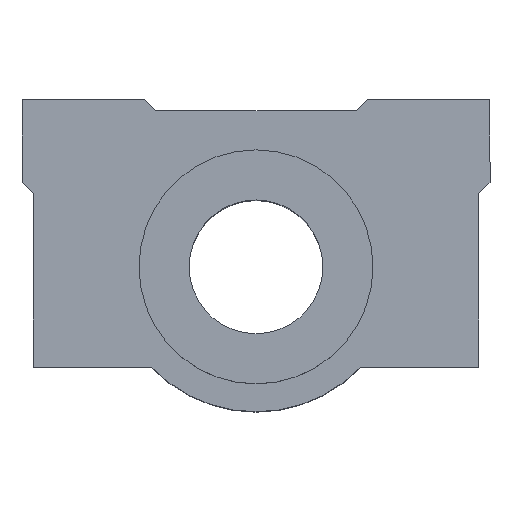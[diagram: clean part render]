
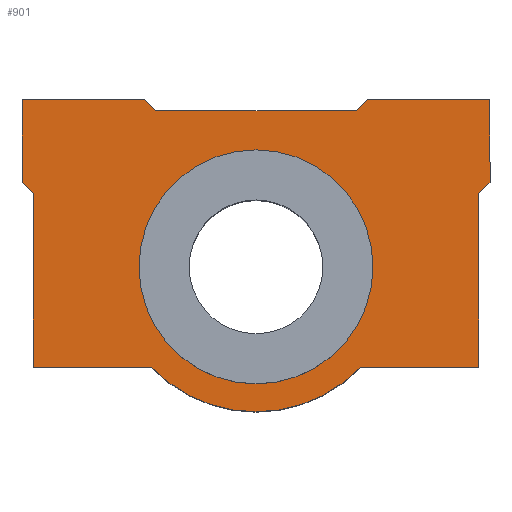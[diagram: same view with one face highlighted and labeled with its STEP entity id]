
A CAD part, top view. The second image highlights one B-rep face of the part: STEP entity #901.
In plain terms, the highlighted planar face has unit normal (0, 0, 1).
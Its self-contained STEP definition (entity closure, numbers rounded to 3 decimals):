
#133=CARTESIAN_POINT('',(-11.209,4.198,25.25));
#134=VERTEX_POINT('',#133);
#143=CARTESIAN_POINT('',(9.791,4.198,25.25));
#144=VERTEX_POINT('',#143);
#145=CARTESIAN_POINT('',(-0.709,4.198,25.25));
#146=DIRECTION('',(0.0,0.0,1.0));
#147=DIRECTION('',(-1.0,0.0,0.0));
#148=AXIS2_PLACEMENT_3D('',#145,#146,#147);
#149=CIRCLE('',#148,10.5);
#150=EDGE_CURVE('',#134,#144,#149,.T.);
#522=CARTESIAN_POINT('',(20.291,11.798,25.25));
#523=VERTEX_POINT('',#522);
#524=CARTESIAN_POINT('',(19.291,10.798,25.25));
#525=VERTEX_POINT('',#524);
#526=CARTESIAN_POINT('',(20.291,11.798,25.25));
#527=DIRECTION('',(-0.707,-0.707,0.0));
#528=VECTOR('',#527,1.414);
#529=LINE('',#526,#528);
#530=EDGE_CURVE('',#523,#525,#529,.T.);
#553=CARTESIAN_POINT('',(19.291,-4.802,25.25));
#554=VERTEX_POINT('',#553);
#555=CARTESIAN_POINT('',(19.291,10.798,25.25));
#556=DIRECTION('',(0.0,-1.0,0.0));
#557=VECTOR('',#556,15.6);
#558=LINE('',#555,#557);
#559=EDGE_CURVE('',#525,#554,#558,.T.);
#577=CARTESIAN_POINT('',(8.672,-4.802,25.25));
#578=VERTEX_POINT('',#577);
#579=CARTESIAN_POINT('',(19.291,-4.802,25.25));
#580=DIRECTION('',(-1.0,0.0,0.0));
#581=VECTOR('',#580,10.619);
#582=LINE('',#579,#581);
#583=EDGE_CURVE('',#554,#578,#582,.T.);
#605=CARTESIAN_POINT('',(-10.09,-4.802,25.25));
#606=VERTEX_POINT('',#605);
#607=CARTESIAN_POINT('',(-0.709,4.198,25.25));
#608=DIRECTION('',(0.0,0.0,-1.));
#609=DIRECTION('',(0.722,0.692,0.0));
#610=AXIS2_PLACEMENT_3D('',#607,#608,#609);
#611=CIRCLE('',#610,13.);
#612=EDGE_CURVE('',#578,#606,#611,.T.);
#630=CARTESIAN_POINT('',(-20.709,-4.802,25.25));
#631=VERTEX_POINT('',#630);
#632=CARTESIAN_POINT('',(-10.09,-4.802,25.25));
#633=DIRECTION('',(-1.0,0.0,0.0));
#634=VECTOR('',#633,10.619);
#635=LINE('',#632,#634);
#636=EDGE_CURVE('',#606,#631,#635,.T.);
#658=CARTESIAN_POINT('',(-20.709,10.798,25.25));
#659=VERTEX_POINT('',#658);
#660=CARTESIAN_POINT('',(-20.709,-4.802,25.25));
#661=DIRECTION('',(0.0,1.0,0.0));
#662=VECTOR('',#661,15.6);
#663=LINE('',#660,#662);
#664=EDGE_CURVE('',#631,#659,#663,.T.);
#682=CARTESIAN_POINT('',(-21.709,11.798,25.25));
#683=VERTEX_POINT('',#682);
#684=CARTESIAN_POINT('',(-20.709,10.798,25.25));
#685=DIRECTION('',(-0.707,0.707,0.0));
#686=VECTOR('',#685,1.414);
#687=LINE('',#684,#686);
#688=EDGE_CURVE('',#659,#683,#687,.T.);
#706=CARTESIAN_POINT('',(-21.709,19.198,25.25));
#707=VERTEX_POINT('',#706);
#708=CARTESIAN_POINT('',(-21.709,11.798,25.25));
#709=DIRECTION('',(0.0,1.0,0.0));
#710=VECTOR('',#709,7.4);
#711=LINE('',#708,#710);
#712=EDGE_CURVE('',#683,#707,#711,.T.);
#730=CARTESIAN_POINT('',(-10.709,19.198,25.25));
#731=VERTEX_POINT('',#730);
#732=CARTESIAN_POINT('',(-21.709,19.198,25.25));
#733=DIRECTION('',(1.0,0.0,0.0));
#734=VECTOR('',#733,11.);
#735=LINE('',#732,#734);
#736=EDGE_CURVE('',#707,#731,#735,.T.);
#758=CARTESIAN_POINT('',(-9.709,18.198,25.25));
#759=VERTEX_POINT('',#758);
#760=CARTESIAN_POINT('',(-10.709,19.198,25.25));
#761=DIRECTION('',(0.707,-0.707,0.0));
#762=VECTOR('',#761,1.414);
#763=LINE('',#760,#762);
#764=EDGE_CURVE('',#731,#759,#763,.T.);
#782=CARTESIAN_POINT('',(8.291,18.198,25.25));
#783=VERTEX_POINT('',#782);
#784=CARTESIAN_POINT('',(-9.709,18.198,25.25));
#785=DIRECTION('',(1.0,0.0,0.0));
#786=VECTOR('',#785,18.);
#787=LINE('',#784,#786);
#788=EDGE_CURVE('',#759,#783,#787,.T.);
#806=CARTESIAN_POINT('',(9.291,19.198,25.25));
#807=VERTEX_POINT('',#806);
#808=CARTESIAN_POINT('',(8.291,18.198,25.25));
#809=DIRECTION('',(0.707,0.707,0.0));
#810=VECTOR('',#809,1.414);
#811=LINE('',#808,#810);
#812=EDGE_CURVE('',#783,#807,#811,.T.);
#830=CARTESIAN_POINT('',(20.291,19.198,25.25));
#831=VERTEX_POINT('',#830);
#832=CARTESIAN_POINT('',(9.291,19.198,25.25));
#833=DIRECTION('',(1.0,0.0,0.0));
#834=VECTOR('',#833,11.);
#835=LINE('',#832,#834);
#836=EDGE_CURVE('',#807,#831,#835,.T.);
#858=CARTESIAN_POINT('',(20.291,19.198,25.25));
#859=DIRECTION('',(0.0,-1.0,0.0));
#860=VECTOR('',#859,7.4);
#861=LINE('',#858,#860);
#862=EDGE_CURVE('',#831,#523,#861,.T.);
#870=CARTESIAN_POINT('',(-0.709,6.764,25.25));
#871=DIRECTION('',(0.0,0.0,1.0));
#872=DIRECTION('',(1.0,0.0,0.0));
#873=AXIS2_PLACEMENT_3D('',#870,#871,#872);
#874=PLANE('',#873);
#875=ORIENTED_EDGE('',*,*,#530,.F.);
#876=ORIENTED_EDGE('',*,*,#862,.F.);
#877=ORIENTED_EDGE('',*,*,#836,.F.);
#878=ORIENTED_EDGE('',*,*,#812,.F.);
#879=ORIENTED_EDGE('',*,*,#788,.F.);
#880=ORIENTED_EDGE('',*,*,#764,.F.);
#881=ORIENTED_EDGE('',*,*,#736,.F.);
#882=ORIENTED_EDGE('',*,*,#712,.F.);
#883=ORIENTED_EDGE('',*,*,#688,.F.);
#884=ORIENTED_EDGE('',*,*,#664,.F.);
#885=ORIENTED_EDGE('',*,*,#636,.F.);
#886=ORIENTED_EDGE('',*,*,#612,.F.);
#887=ORIENTED_EDGE('',*,*,#583,.F.);
#888=ORIENTED_EDGE('',*,*,#559,.F.);
#889=EDGE_LOOP('',(#875,#876,#877,#878,#879,#880,#881,#882,#883,#884,#885,#886,#887,#888));
#890=FACE_OUTER_BOUND('',#889,.T.);
#891=CARTESIAN_POINT('',(-0.709,4.198,25.25));
#892=DIRECTION('',(0.0,0.0,1.0));
#893=DIRECTION('',(-1.0,0.0,0.0));
#894=AXIS2_PLACEMENT_3D('',#891,#892,#893);
#895=CIRCLE('',#894,10.5);
#896=EDGE_CURVE('',#144,#134,#895,.T.);
#897=ORIENTED_EDGE('',*,*,#896,.F.);
#898=ORIENTED_EDGE('',*,*,#150,.F.);
#899=EDGE_LOOP('',(#897,#898));
#900=FACE_BOUND('',#899,.T.);
#901=ADVANCED_FACE('',(#890,#900),#874,.T.);
